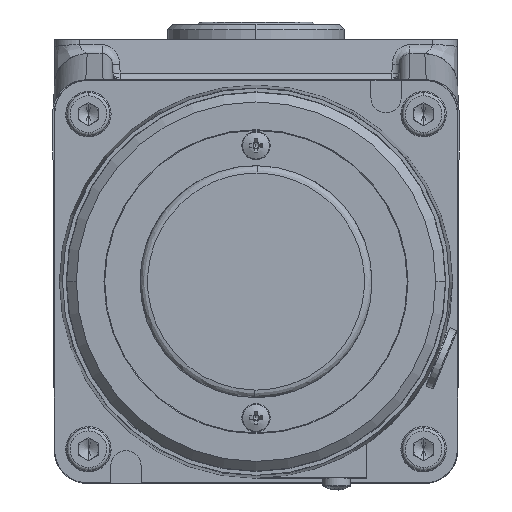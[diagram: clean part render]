
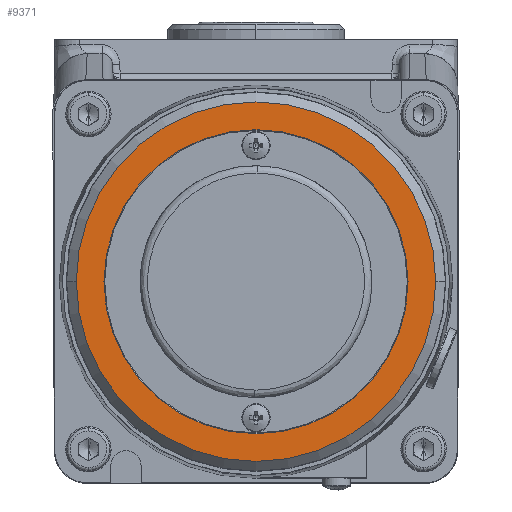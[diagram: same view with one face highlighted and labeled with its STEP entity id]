
A CAD part, front view. The second image highlights one B-rep face of the part: STEP entity #9371.
In plain terms, the highlighted planar face has unit normal (0, -1, 0) as drawn and (0, 1, 0) by its records, which use the part's own axes.
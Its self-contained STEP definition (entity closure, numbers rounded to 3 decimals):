
#2126 = VERTEX_POINT ( 'NONE', #33412 ) ;
#5254 = AXIS2_PLACEMENT_3D ( 'NONE', #31834, #73934, #37834 ) ;
#7396 = DIRECTION ( 'NONE',  ( 0., -1., 0. ) ) ;
#8204 = VERTEX_POINT ( 'NONE', #61212 ) ;
#9371 = ADVANCED_FACE ( 'NONE', ( #17244, #16937 ), #56640, .T. ) ;
#13204 = AXIS2_PLACEMENT_3D ( 'NONE', #43237, #7396, #49334 ) ;
#14881 = DIRECTION ( 'NONE',  ( 0., 0., 1. ) ) ;
#16937 = FACE_OUTER_BOUND ( 'NONE', #22353, .T. ) ;
#17244 = FACE_BOUND ( 'NONE', #37623, .T. ) ;
#22353 = EDGE_LOOP ( 'NONE', ( #35928, #41536 ) ) ;
#24290 = DIRECTION ( 'NONE',  ( 0., -1., 0. ) ) ;
#25081 = CIRCLE ( 'NONE', #13204, 35.65 ) ;
#25917 = DIRECTION ( 'NONE',  ( 0., -1., 0. ) ) ;
#27493 = EDGE_CURVE ( 'NONE', #2126, #53443, #46678, .T. ) ;
#31834 = CARTESIAN_POINT ( 'NONE',  ( 0., 79.5, 0. ) ) ;
#32526 = EDGE_CURVE ( 'NONE', #8204, #76999, #75979, .T. ) ;
#33412 = CARTESIAN_POINT ( 'NONE',  ( 0., 79.5, -35.65 ) ) ;
#35928 = ORIENTED_EDGE ( 'NONE', *, *, #27493, .F. ) ;
#37623 = EDGE_LOOP ( 'NONE', ( #69943, #58035 ) ) ;
#37834 = DIRECTION ( 'NONE',  ( 0., 0., 1. ) ) ;
#39021 = CIRCLE ( 'NONE', #72357, 30.15 ) ;
#41536 = ORIENTED_EDGE ( 'NONE', *, *, #49218, .F. ) ;
#43237 = CARTESIAN_POINT ( 'NONE',  ( 0., 79.5, 0. ) ) ;
#46678 = CIRCLE ( 'NONE', #51976, 35.65 ) ;
#47578 = EDGE_CURVE ( 'NONE', #76999, #8204, #39021, .T. ) ;
#49218 = EDGE_CURVE ( 'NONE', #53443, #2126, #25081, .T. ) ;
#49334 = DIRECTION ( 'NONE',  ( 0., 0., 1. ) ) ;
#51614 = CARTESIAN_POINT ( 'NONE',  ( 0., 79.5, 35.65 ) ) ;
#51976 = AXIS2_PLACEMENT_3D ( 'NONE', #61875, #25917, #67907 ) ;
#53443 = VERTEX_POINT ( 'NONE', #51614 ) ;
#56640 = PLANE ( 'NONE',  #60647 ) ;
#56864 = CARTESIAN_POINT ( 'NONE',  ( 0., 79.5, -30.15 ) ) ;
#58035 = ORIENTED_EDGE ( 'NONE', *, *, #47578, .T. ) ;
#60218 = CARTESIAN_POINT ( 'NONE',  ( 0., 79.5, 0. ) ) ;
#60647 = AXIS2_PLACEMENT_3D ( 'NONE', #74829, #62927, #14881 ) ;
#61212 = CARTESIAN_POINT ( 'NONE',  ( 0., 79.5, 30.15 ) ) ;
#61875 = CARTESIAN_POINT ( 'NONE',  ( 0., 79.5, 0. ) ) ;
#62927 = DIRECTION ( 'NONE',  ( 0., 1., 0. ) ) ;
#66233 = DIRECTION ( 'NONE',  ( 0., 0., 1. ) ) ;
#67907 = DIRECTION ( 'NONE',  ( 0., 0., 1. ) ) ;
#69943 = ORIENTED_EDGE ( 'NONE', *, *, #32526, .T. ) ;
#72357 = AXIS2_PLACEMENT_3D ( 'NONE', #60218, #24290, #66233 ) ;
#73934 = DIRECTION ( 'NONE',  ( 0., -1., 0. ) ) ;
#74829 = CARTESIAN_POINT ( 'NONE',  ( 0., 79.5, 0. ) ) ;
#75979 = CIRCLE ( 'NONE', #5254, 30.15 ) ;
#76999 = VERTEX_POINT ( 'NONE', #56864 ) ;
